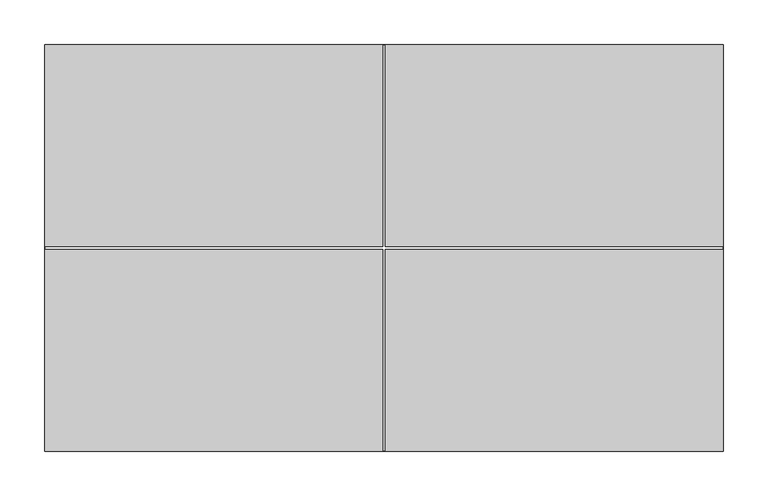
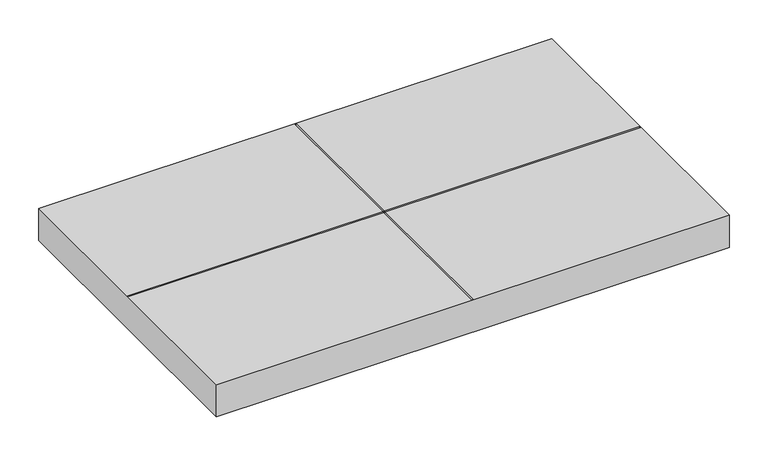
"""IFC4 building model written with IfcOpenShell, lengths in millimetres: furniture geometry, Steelcase - Universal Storage - Cushion Top - for Lateral File : Flush Steel Front - 18D x 30W."""

from ifc_helpers import new_model, si_unit, frame, origin, place, context, project, spatial, polyline, outline, extrude, source, transform, mapped, element, save


def furniture_ab05ae43(model_context):
    return source(origin(), model_context, "Body", "SweptSolid", [
        extrude(outline(polyline([(762.0, 0.0), (762.0, -457.2), (0.0, -457.2), (0.0, 0.0), (762.0, 0.0)]), holes=[polyline([(0.889, -227.711), (0.889, -229.489), (380.111, -229.489), (380.111, -456.3110015), (381.889, -456.3110015), (381.889, -229.489), (761.1109651, -229.489), (761.1109651, -227.711), (381.889, -227.711), (381.889, -0.889), (380.111, -0.889), (380.111, -227.711), (0.889, -227.711)])]), frame((0.0, 0.0, 533.4), z_axis=(0.0, 0.0, 1.0), x_axis=(1.0, 0.0, 0.0)), (0.0, 0.0, 1.0), 50.7999971),
    ])


if __name__ == "__main__":
    model = new_model("IFC4")
    model_context = context("Model", 3, world=origin())
    ifc_project = project(units=[si_unit("LENGTHUNIT", "METRE", prefix="MILLI")], contexts=[model_context])
    site = spatial("IfcSite", under=ifc_project)
    building = spatial("IfcBuilding", under=site)
    placement = place(None, origin())
    furniture_shape = furniture_ab05ae43(model_context)
    element("IfcFurniture", 1, ObjectType="Steelcase - Universal Storage - Cushion Top - for Lateral File : Flush Steel Front - 18D x 30W", at=placement, inside=building, context=model_context, shape_type="MappedRepresentation", body=[
        mapped(furniture_shape, transform((0.0, 0.0, 0.0), x_axis=(1.0, 0.0, 0.0), y_axis=(0.0, 1.0, 0.0), z_axis=(0.0, 0.0, 1.0))),
    ])
    save(model, "model.ifc")
